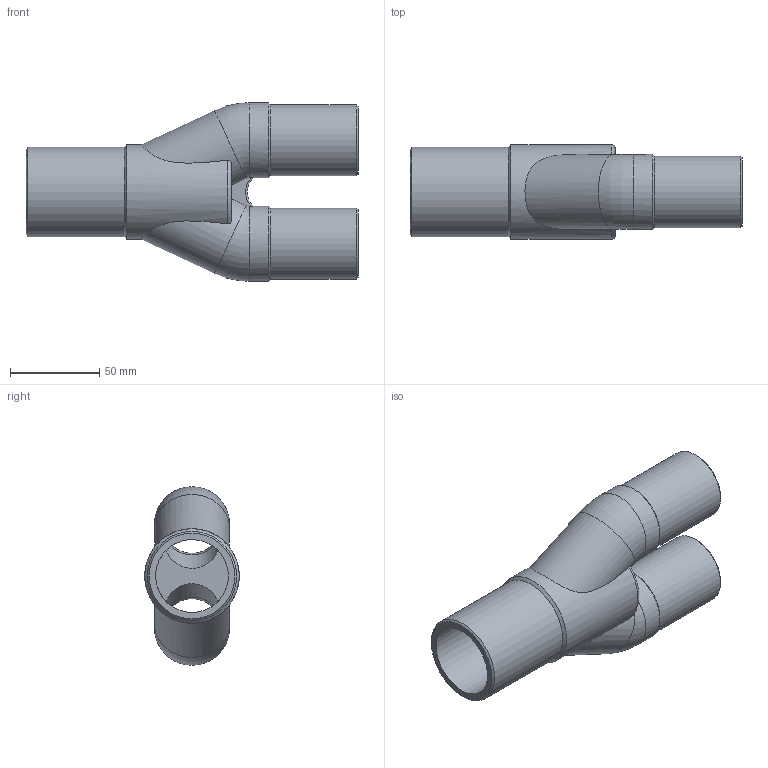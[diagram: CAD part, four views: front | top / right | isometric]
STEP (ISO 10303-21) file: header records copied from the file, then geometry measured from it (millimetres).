
FILE_DESCRIPTION(/* description */ ('Unknown'),/* implementation_level */ '2;1');
FILE_NAME(/* name */ 'YRP050040C',/* time_stamp */ '2022-02-23T11:10:15+01:00',/* author */ ('Unknown'),/* organization */ ('Unknown'),/* preprocessor_version */ 'ST-DEVELOPER v18.1',/* originating_system */ 'Solid Edge',/* authorisation */ 'Unknown');
FILE_SCHEMA (('AUTOMOTIVE_DESIGN {1 0 10303 214 3 1 1}'));
Length unit declared in the file: millimetre
Products named in the file (1): YRP050040C
Bounding box: 186 x 53 x 100 mm (x, y, z)
Volume: 169532.2 mm3; surface area: 74270 mm2
Topology: 1 solids, 1 shells, 40 faces, 107 edges, 68 vertices
Faces by surface type: cylinder 14, plane 12, torus 8, cone 6
Full cylindrical faces by diameter (mm): 32.6 x4, 40 x2, 40.8 x1, 42 x2, 50 x1, 53 x1
Entity records: 1222 total; most frequent: CARTESIAN_POINT 327, DIRECTION 190, ORIENTED_EDGE 154, AXIS2_PLACEMENT_3D 88, EDGE_CURVE 77, EDGE_LOOP 62, FACE_BOUND 62, VERTEX_POINT 57
